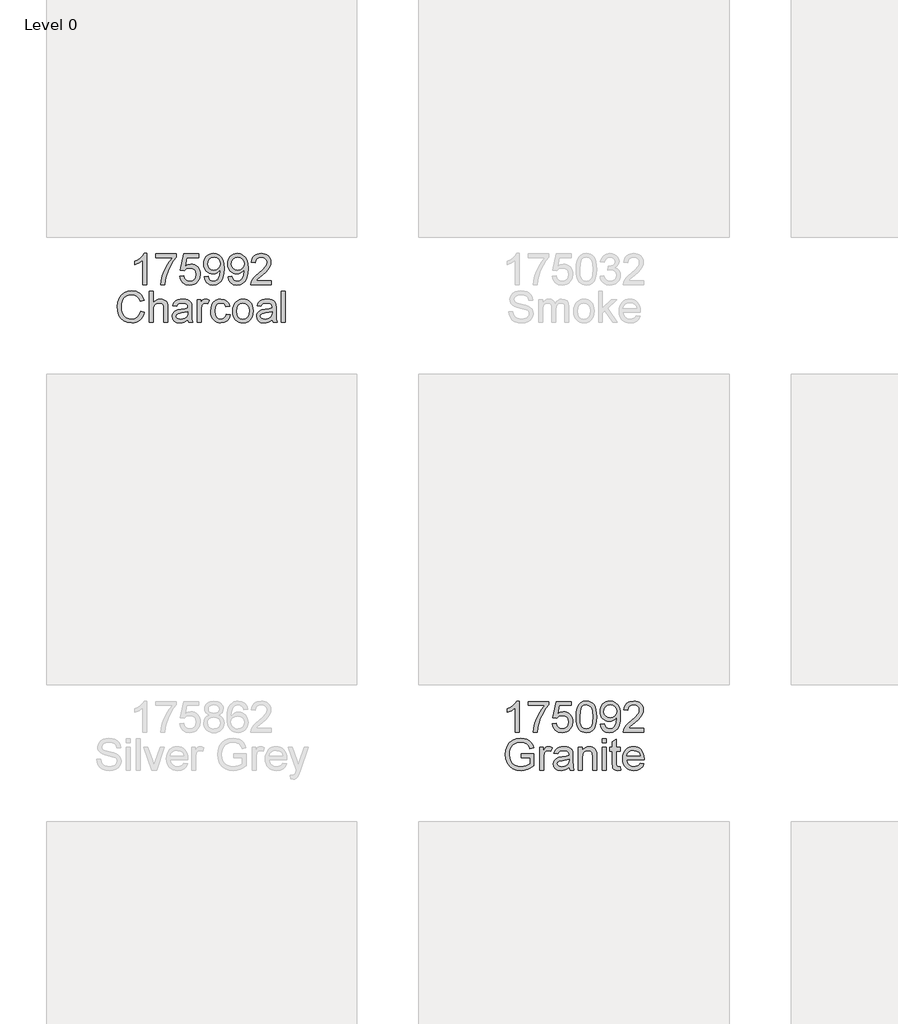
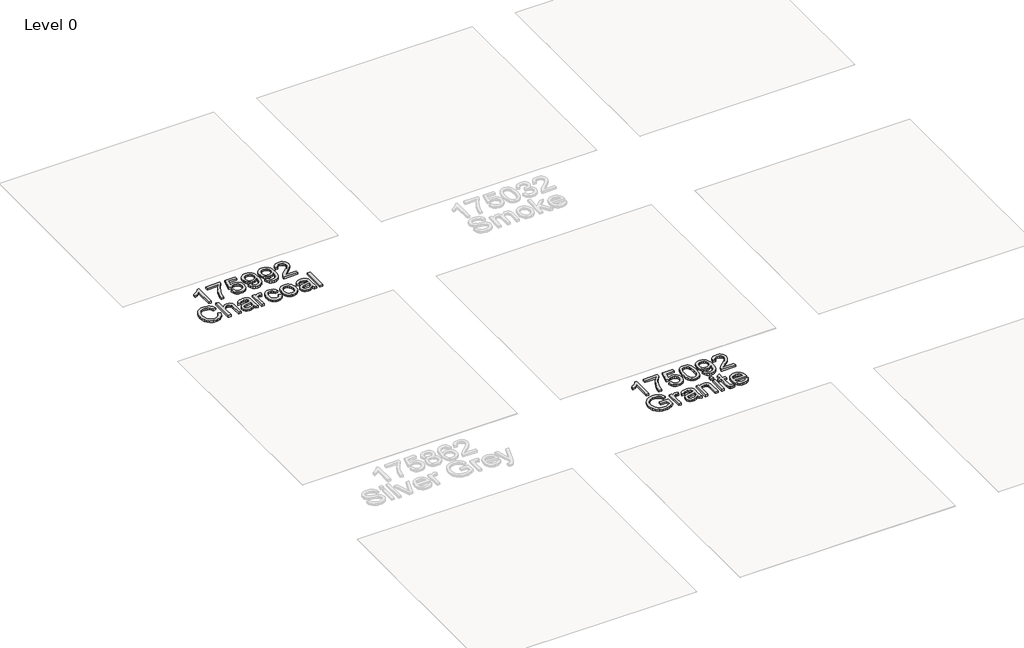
# One storey, part 3 of 5: 2 proxies.
"""IFC4 building model written with IfcOpenShell, lengths in millimetres."""

from ifc_helpers import new_model, si_unit, origin, origin_with_axes, place, context, project, spatial, polyline, outline, extrude, element, save

model = new_model("IFC4")

# Units and contexts
model_context = context("Model", 3, world=origin())
ifc_project = project(units=[si_unit("LENGTHUNIT", "METRE", prefix="MILLI")], contexts=[model_context])

# Site, building, storey
site = spatial("IfcSite", under=ifc_project)
building = spatial("IfcBuilding", under=site)
storey = spatial("IfcBuildingStorey", under=building, Name="Level 0", Elevation=0.0)

# Proxies
placement = place(None, origin())
element("IfcBuildingElementProxy", 1, Name="Floor Name", ObjectType="Floor Name", at=placement, inside=storey, context=model_context, shape_type="SweptSolid", body=[
    extrude(outline(polyline([(20690.377598, -2548.7362914), (20652.7064817, -2548.7362914), (20652.7064817, -2313.8804257), (20617.0219282, -2339.3010716), (20577.3642491, -2358.3205707), (20577.3642491, -2322.7095936), (20606.9511586, -2306.6147563), (20632.5833366, -2287.4664984), (20652.7892552, -2267.10423), (20666.0973864, -2247.367361), (20690.377598, -2247.367361), (20690.377598, -2548.7362914)])), origin_with_axes(), (0.0, 0.0, 1.0), 25.0),
    extrude(outline(polyline([(20779.8464993, -2289.7473668), (20779.8464993, -2252.0762505), (20977.6198599, -2252.0762505), (20977.6198599, -2282.5368797), (20949.430902, -2318.2122362), (20921.5178556, -2363.5812832), (20896.8973531, -2414.5053484), (20878.5860268, -2466.8457593), (20869.6097061, -2506.0067977), (20864.606511, -2548.7362914), (20826.9353947, -2548.7362914), (20831.0096878, -2509.9063468), (20841.9081919, -2463.7555505), (20859.3366014, -2414.8364422), (20883.0006107, -2367.7015616), (20910.6285486, -2325.0916295), (20939.9487436, -2289.7473668), (20779.8464993, -2289.7473668)])), origin_with_axes(), (0.0, 0.0, 1.0), 25.0),
    extrude(outline(polyline([(21010.5820866, -2468.6851693), (21048.253203, -2463.9762797), (21055.1693845, -2486.5918254), (21067.2359139, -2502.7878302), (21084.397609, -2512.527506), (21106.5992874, -2515.7740646), (21133.6018258, -2511.2583132), (21153.8353356, -2497.7110587), (21166.4720821, -2476.6957997), (21170.6843309, -2449.7760347), (21166.7387965, -2424.4289652), (21154.9021934, -2405.0415841), (21135.0825509, -2392.7359314), (21107.1878986, -2388.6340471), (21088.9133605, -2390.271122), (21074.1153072, -2395.1823466), (21052.9620925, -2412.1784948), (21015.2909762, -2407.4696053), (21048.253203, -2252.0762505), (21194.2287786, -2252.0762505), (21194.2287786, -2289.7473668), (21078.7138322, -2289.7473668), (21062.6006008, -2372.7415449), (21089.5111687, -2356.4075843), (21117.7093236, -2350.9629308), (21136.0551389, -2352.6505895), (21152.9064335, -2357.7135654), (21168.2632076, -2366.1518587), (21182.125461, -2377.9654693), (21193.60108, -2392.4324287), (21201.7979507, -2408.8307687), (21206.7160731, -2427.1604891), (21208.3554473, -2447.4215899), (21202.4509412, -2485.0927063), (21195.0703087, -2501.8865193), (21184.7374232, -2517.319169), (21169.0840443, -2533.1242992), (21150.8187032, -2544.413678), (21129.9414, -2551.1873052), (21106.4521346, -2553.445181), (21069.4524029, -2547.6418425), (21053.7737321, -2540.3876694), (21039.9758581, -2530.2318271), (21028.4956405, -2517.6801532), (21019.7699395, -2503.2384857), (21010.5820866, -2468.6851693)])), origin_with_axes(), (0.0, 0.0, 1.0), 25.0),
    extrude(outline(polyline([(21246.0265636, -2473.3940588), (21283.6976799, -2468.6851693), (21290.1356148, -2490.0683102), (21300.6202516, -2504.6272402), (21314.8940731, -2512.9873585), (21332.6995616, -2515.7740646), (21348.6748373, -2513.9806399), (21363.196979, -2508.6003657), (21375.2635085, -2500.2218533), (21383.8719472, -2489.4337138), (21396.195994, -2456.6922162), (21401.6406475, -2412.9878352), (21401.4199183, -2405.6301953), (21388.3693045, -2421.5594857), (21371.2903829, -2434.1778381), (21351.4155581, -2442.4000007), (21329.9772349, -2445.1407216), (21312.0820751, -2443.4668585), (21295.6262536, -2438.4452693), (21280.6097704, -2430.0759539), (21267.0326255, -2418.3589123), (21255.7823342, -2403.9057484), (21247.7464119, -2387.328066), (21242.9248585, -2368.6258651), (21241.317674, -2347.7991457), (21243.0030334, -2326.2780489), (21248.0591116, -2306.9642442), (21256.4859085, -2289.8577314), (21268.2834243, -2274.9585106), (21282.6193258, -2262.8873826), (21298.66128, -2254.2651484), (21316.409287, -2249.0918078), (21335.8633468, -2247.367361), (21363.9603342, -2251.3036983), (21389.5373299, -2263.1127104), (21410.9296679, -2282.2057859), (21426.4726822, -2307.9943138), (21435.9364465, -2343.6420791), (21439.0910346, -2392.3128671), (21435.9456436, -2443.9175139), (21426.5094704, -2483.8051193), (21410.8652885, -2513.7783048), (21389.0958715, -2535.6396924), (21362.1393183, -2548.9938088), (21330.933728, -2553.445181), (21298.7256594, -2548.1936655), (21273.029102, -2532.439119), (21255.0580665, -2507.174823), (21246.0265636, -2473.3940588)]), holes=[polyline([(21401.4199183, -2346.9162289), (21397.3548223, -2321.3852184), (21385.1595341, -2301.7403199), (21366.2320055, -2289.2139379), (21341.9701879, -2285.0384773), (21316.8070594, -2289.5358347), (21296.6471261, -2303.0279068), (21283.4033743, -2323.6752838), (21278.9887903, -2349.6385556), (21283.164251, -2372.9162889), (21295.6906329, -2391.3931621), (21315.3539256, -2403.4504945), (21340.9401183, -2407.4696053), (21365.0087979, -2403.4504945), (21384.3869819, -2391.3931621), (21397.1616842, -2372.2357072), (21401.4199183, -2346.9162289)])]), origin_with_axes(), (0.0, 0.0, 1.0), 25.0),
    extrude(outline(polyline([(21476.7621509, -2473.3940588), (21514.4332672, -2468.6851693), (21520.8712022, -2490.0683102), (21531.355839, -2504.6272402), (21545.6296604, -2512.9873585), (21563.435149, -2515.7740646), (21579.4104246, -2513.9806399), (21593.9325664, -2508.6003657), (21605.9990958, -2500.2218533), (21614.6075345, -2489.4337138), (21626.9315814, -2456.6922162), (21632.3762349, -2412.9878352), (21632.1555057, -2405.6301953), (21619.1048919, -2421.5594857), (21602.0259703, -2434.1778381), (21582.1511455, -2442.4000007), (21560.7128222, -2445.1407216), (21542.8176624, -2443.4668585), (21526.3618409, -2438.4452693), (21511.3453577, -2430.0759539), (21497.7682129, -2418.3589123), (21486.5179216, -2403.9057484), (21478.4819993, -2387.328066), (21473.6604459, -2368.6258651), (21472.0532614, -2347.7991457), (21473.7386208, -2326.2780489), (21478.794699, -2306.9642442), (21487.2214959, -2289.8577314), (21499.0190116, -2274.9585106), (21513.3549131, -2262.8873826), (21529.3968674, -2254.2651484), (21547.1448744, -2249.0918078), (21566.5989342, -2247.367361), (21594.6959215, -2251.3036983), (21620.2729173, -2263.1127104), (21641.6652553, -2282.2057859), (21657.2082696, -2307.9943138), (21666.6720339, -2343.6420791), (21669.826622, -2392.3128671), (21666.6812309, -2443.9175139), (21657.2450578, -2483.8051193), (21641.6008759, -2513.7783048), (21619.8314589, -2535.6396924), (21592.8749057, -2548.9938088), (21561.6693154, -2553.445181), (21529.4612467, -2548.1936655), (21503.7646894, -2532.439119), (21485.7936539, -2507.174823), (21476.7621509, -2473.3940588)]), holes=[polyline([(21632.1555057, -2346.9162289), (21628.0904097, -2321.3852184), (21615.8951215, -2301.7403199), (21596.9675929, -2289.2139379), (21572.7057753, -2285.0384773), (21547.5426468, -2289.5358347), (21527.3827135, -2303.0279068), (21514.1389616, -2323.6752838), (21509.7243777, -2349.6385556), (21513.8998383, -2372.9162889), (21526.4262203, -2391.3931621), (21546.0895129, -2403.4504945), (21571.6757057, -2407.4696053), (21595.7443852, -2403.4504945), (21615.1225693, -2391.3931621), (21627.8972716, -2372.2357072), (21632.1555057, -2346.9162289)])]), origin_with_axes(), (0.0, 0.0, 1.0), 25.0),
    extrude(outline(polyline([(21895.8533198, -2511.0651751), (21895.8533198, -2548.7362914), (21698.0799592, -2548.7362914), (21702.1266612, -2522.7638226), (21711.4156816, -2502.4659335), (21725.0089213, -2482.7750497), (21744.6722139, -2462.1644609), (21772.1713931, -2439.1074569), (21812.8223535, -2402.999839), (21837.2129298, -2376.3467885), (21849.4082179, -2354.7153272), (21853.473314, -2333.672477), (21849.6381442, -2314.8093277), (21838.1326348, -2299.1283577), (21820.4467079, -2288.5609474), (21798.0702855, -2285.0384773), (21774.5718231, -2288.4781739), (21756.3156791, -2298.7972639), (21744.5342582, -2315.1864068), (21740.4599651, -2336.8362622), (21702.7888488, -2332.1273727), (21711.9215193, -2295.688661), (21720.4678779, -2281.1527237), (21731.6675854, -2269.0723987), (21745.2631244, -2259.5764447), (21760.9969775, -2252.7936204), (21798.8796259, -2247.367361), (21819.0694497, -2248.8756771), (21837.0381859, -2253.4006257), (21852.7858345, -2260.9422066), (21866.3123956, -2271.5004199), (21877.1764108, -2284.2935162), (21884.9364216, -2298.5397465), (21889.5924281, -2314.2391106), (21891.1444303, -2331.3916087), (21889.4705672, -2349.4086294), (21884.448978, -2367.1129504), (21875.5370367, -2385.1207741), (21862.1921173, -2404.0483027), (21840.9193409, -2426.6454543), (21808.2238286, -2455.6621466), (21764.8873296, -2491.8985232), (21747.8911814, -2511.0651751), (21895.8533198, -2511.0651751)])), origin_with_axes(), (0.0, 0.0, 1.0), 25.0),
    extrude(outline(polyline([(20631.5164788, -2807.533508), (20669.1875951, -2817.2455926), (20661.7333862, -2840.6727779), (20651.8051709, -2861.1431117), (20639.4029491, -2878.6565939), (20624.5267209, -2893.2132246), (20607.5121786, -2904.6566539), (20588.6950146, -2912.830532), (20568.0752287, -2917.7348589), (20545.6528211, -2919.3696345), (20501.9576372, -2914.4216217), (20467.257168, -2899.5775831), (20440.6592997, -2875.3525538), (20421.2719186, -2842.2615683), (20409.4353154, -2803.3580473), (20405.489781, -2761.6954114), (20409.9503502, -2717.751907), (20423.3320577, -2679.8048792), (20444.9359279, -2649.0591415), (20474.0629849, -2626.7195073), (20508.6071042, -2613.1170706), (20546.4621615, -2608.582925), (20587.7661125, -2614.4506428), (20605.7348487, -2621.7852901), (20621.9147587, -2632.0537963), (20636.0391281, -2644.9848484), (20647.8412424, -2660.3071335), (20664.4787056, -2698.1254026), (20626.8075893, -2707.1017233), (20613.7477784, -2679.6301353), (20595.9055017, -2660.7853801), (20573.0600298, -2649.886876), (20544.9906336, -2646.2540413), (20512.6354121, -2650.2823491), (20486.0559379, -2662.3672727), (20465.8868075, -2681.239619), (20452.7626174, -2705.6301953), (20445.5613273, -2733.2029508), (20443.1608973, -2761.621835), (20446.0027857, -2796.4234717), (20454.5284509, -2826.5162189), (20469.0597897, -2850.7504453), (20489.9186989, -2867.9765198), (20514.9254775, -2878.2680186), (20541.9004248, -2881.6985182), (20573.3451383, -2877.0264168), (20599.5475334, -2863.0101128), (20619.3303877, -2839.7967589), (20631.5164788, -2807.533508)])), origin_with_axes(), (0.0, 0.0, 1.0), 25.0),
    extrude(outline(polyline([(20716.2764905, -2914.660745), (20716.2764905, -2613.2918145), (20753.9476068, -2613.2918145), (20753.9476068, -2724.0978715), (20767.7845684, -2708.5824483), (20783.3229841, -2697.5000032), (20800.5628541, -2690.8505361), (20819.5041784, -2688.6340471), (20842.2576798, -2691.0528712), (20861.8106078, -2698.3093436), (20877.2064693, -2709.8332471), (20887.4887711, -2725.0543646), (20893.2829125, -2745.9684561), (20895.214293, -2774.5712812), (20895.214293, -2914.660745), (20857.5431767, -2914.660745), (20857.5431767, -2778.4708303), (20854.5449384, -2754.8895944), (20845.5502236, -2738.7395749), (20831.055673, -2729.4137663), (20811.5579273, -2726.3051634), (20795.6378339, -2728.4020908), (20780.6926279, -2734.6928729), (20768.3133987, -2744.5705045), (20760.0912361, -2757.4279802), (20755.4835141, -2774.5160989), (20753.9476068, -2797.0856593), (20753.9476068, -2914.660745), (20716.2764905, -2914.660745)])), origin_with_axes(), (0.0, 0.0, 1.0), 25.0),
    extrude(outline(polyline([(21088.278764, -2886.4074077), (21070.2801374, -2901.8400574), (21051.7480819, -2911.9384182), (21032.2595332, -2917.5118304), (21011.391427, -2919.3696345), (20979.9099253, -2914.8998682), (20956.6873744, -2901.4905695), (20942.3675677, -2881.1283011), (20937.5942988, -2855.7996257), (20939.3969206, -2840.183035), (20944.8047859, -2826.0011841), (20953.1465102, -2813.8610783), (20963.7507087, -2804.3697228), (20990.1278477, -2792.0088878), (21022.7221925, -2786.343505), (21061.2394374, -2780.3838167), (21088.0580348, -2773.3940588), (21088.278764, -2765.0063493), (21085.685196, -2748.1941421), (21077.9044918, -2737.1944705), (21060.5036734, -2729.0274902), (21036.2602499, -2726.3051634), (21013.8194482, -2728.1169822), (20998.1476752, -2733.5524387), (20987.4607033, -2743.6048142), (20979.9743046, -2759.2673902), (20942.3031883, -2754.5585007), (20948.8422908, -2733.9571089), (20958.6003607, -2717.7703011), (20972.487906, -2705.391072), (20991.4154347, -2696.2124162), (21014.5644092, -2690.5286394), (21041.1162922, -2688.6340471), (21066.5829234, -2690.3079102), (21086.7704478, -2695.3294994), (21101.9915654, -2702.8802774), (21112.5589757, -2712.1417066), (21119.5671277, -2723.5920337), (21124.1104704, -2737.7095053), (21125.9498803, -2770.671732), (21125.9498803, -2817.5398982), (21127.8628667, -2882.9861052), (21135.3676594, -2914.660745), (21097.6965431, -2914.660745), (21088.278764, -2886.4074077)]), holes=[polyline([(21088.278764, -2811.0651751), (21027.5046584, -2822.6166698), (20995.0942547, -2828.7235109), (20980.415763, -2838.6563247), (20975.2654151, -2853.1508754), (20978.0705153, -2864.3528821), (20986.485816, -2873.5315379), (21000.327376, -2879.6567731), (21019.4112545, -2881.6985182), (21039.6447643, -2879.445241), (21057.5238292, -2872.6854093), (21072.0183798, -2862.7250043), (21082.0983465, -2850.870007), (21086.5681128, -2838.6563247), (21088.0580348, -2821.733753), (21088.278764, -2811.0651751)])]), origin_with_axes(), (0.0, 0.0, 1.0), 25.0),
    extrude(outline(polyline([(21177.7476653, -2914.660745), (21177.7476653, -2693.3429367), (21210.709892, -2693.3429367), (21210.709892, -2726.0844342), (21222.8867861, -2707.1017233), (21234.1071869, -2695.9181106), (21245.364376, -2690.455063), (21257.6516346, -2688.6340471), (21276.4136164, -2691.5403149), (21295.4699037, -2700.2591182), (21282.8883395, -2734.0306853), (21269.6445877, -2728.2365439), (21256.4008358, -2726.3051634), (21245.1528438, -2728.1629675), (21235.1004683, -2733.7363797), (21226.9794733, -2742.6023358), (21221.5256227, -2754.3377715), (21216.9454918, -2775.3806216), (21215.4187816, -2798.3364581), (21215.4187816, -2914.660745), (21177.7476653, -2914.660745)])), origin_with_axes(), (0.0, 0.0, 1.0), 25.0),
    extrude(outline(polyline([(21460.2810376, -2834.6096228), (21497.9521539, -2839.3185123), (21487.4491229, -2872.8233651), (21467.7122539, -2898.1428434), (21440.5993508, -2914.0629367), (21407.9682178, -2919.3696345), (21386.840295, -2917.5187282), (21367.8966715, -2911.9660093), (21351.1373474, -2902.7114779), (21336.5623226, -2889.7551339), (21324.7648068, -2873.3406991), (21316.3380099, -2853.7118954), (21311.2819317, -2830.8687228), (21309.5965723, -2804.8111812), (21312.4752489, -2771.2879344), (21321.1112788, -2742.2344538), (21335.6426176, -2718.7727796), (21356.2072211, -2702.0249517), (21380.8093295, -2691.9817733), (21407.453183, -2688.6340471), (21439.2841727, -2693.2325721), (21464.7324097, -2707.0281469), (21482.9885537, -2729.2850076), (21493.2432643, -2759.2673902), (21455.572148, -2763.9762797), (21448.73874, -2747.5411516), (21438.0977532, -2735.7597307), (21424.2377991, -2728.6688052), (21407.7474886, -2726.3051634), (21383.4028976, -2730.9588707), (21364.0798958, -2744.9199924), (21351.4707404, -2768.9426867), (21347.2676886, -2803.7811116), (21351.3787699, -2839.0885861), (21363.7120138, -2863.1940538), (21382.6855277, -2877.0724021), (21406.7174191, -2881.6985182), (21426.2243618, -2878.8106445), (21442.2180316, -2870.1470235), (21453.8522997, -2855.486926), (21460.2810376, -2834.6096228)])), origin_with_axes(), (0.0, 0.0, 1.0), 25.0),
    extrude(outline(polyline([(21521.4966015, -2804.0018408), (21523.5337481, -2775.3392349), (21529.6451877, -2750.6405574), (21539.8309205, -2729.9058084), (21554.0909463, -2713.134988), (21568.4475412, -2702.4158264), (21584.2940581, -2694.7592823), (21601.6304971, -2690.1653559), (21620.4568583, -2688.6340471), (21641.2398917, -2690.498749), (21660.0317639, -2696.0928546), (21676.8324747, -2705.4163639), (21691.6420243, -2718.4692769), (21703.7292471, -2734.8101353), (21712.3629777, -2753.9974806), (21717.543216, -2776.0313129), (21719.2699622, -2800.911632), (21716.2165416, -2838.9690244), (21707.0562799, -2867.9397316), (21692.0558916, -2889.6355722), (21671.482091, -2905.8683653), (21647.0455295, -2915.9943172), (21620.4568583, -2919.3696345), (21599.3703221, -2917.5118304), (21580.403706, -2911.9384182), (21563.5570099, -2902.6493978), (21548.8302338, -2889.6447693), (21536.8717697, -2873.1452618), (21528.3300096, -2853.3716046), (21523.2049536, -2830.3237976), (21521.4966015, -2804.0018408)]), holes=[polyline([(21559.1677179, -2803.9282644), (21563.5271195, -2838.0217283), (21576.6053244, -2862.311137), (21596.2870112, -2876.8516729), (21620.4568583, -2881.6985182), (21644.5163407, -2876.8240817), (21664.1612393, -2862.2007724), (21677.2394442, -2837.589467), (21681.5988458, -2802.751042), (21677.2118531, -2769.6508595), (21664.0508747, -2745.6925446), (21644.378385, -2731.1520087), (21620.4568583, -2726.3051634), (21596.2870112, -2731.1336146), (21576.6053244, -2745.6189682), (21563.5271195, -2769.8531946), (21559.1677179, -2803.9282644)])]), origin_with_axes(), (0.0, 0.0, 1.0), 25.0),
    extrude(outline(polyline([(21902.9166541, -2886.4074077), (21884.9180275, -2901.8400574), (21866.385972, -2911.9384182), (21846.8974233, -2917.5118304), (21826.0293172, -2919.3696345), (21794.5478154, -2914.8998682), (21771.3252645, -2901.4905695), (21757.0054578, -2881.1283011), (21752.2321889, -2855.7996257), (21754.0348107, -2840.183035), (21759.442676, -2826.0011841), (21767.7844003, -2813.8610783), (21778.3885988, -2804.3697228), (21804.7657378, -2792.0088878), (21837.3600826, -2786.343505), (21875.8773275, -2780.3838167), (21902.695925, -2773.3940588), (21902.9166541, -2765.0063493), (21900.3230861, -2748.1941421), (21892.5423819, -2737.1944705), (21875.1415635, -2729.0274902), (21850.89814, -2726.3051634), (21828.4573383, -2728.1169822), (21812.7855653, -2733.5524387), (21802.0985934, -2743.6048142), (21794.6121948, -2759.2673902), (21756.9410785, -2754.5585007), (21763.4801809, -2733.9571089), (21773.2382508, -2717.7703011), (21787.1257962, -2705.391072), (21806.0533248, -2696.2124162), (21829.2022994, -2690.5286394), (21855.7541824, -2688.6340471), (21881.2208135, -2690.3079102), (21901.408338, -2695.3294994), (21916.6294555, -2702.8802774), (21927.1968658, -2712.1417066), (21934.2050178, -2723.5920337), (21938.7483605, -2737.7095053), (21940.5877705, -2770.671732), (21940.5877705, -2817.5398982), (21942.5007568, -2882.9861052), (21950.0055495, -2914.660745), (21912.3344332, -2914.660745), (21902.9166541, -2886.4074077)]), holes=[polyline([(21902.9166541, -2811.0651751), (21842.1425485, -2822.6166698), (21809.7321448, -2828.7235109), (21795.0536532, -2838.6563247), (21789.9033052, -2853.1508754), (21792.7084054, -2864.3528821), (21801.1237061, -2873.5315379), (21814.9652662, -2879.6567731), (21834.0491447, -2881.6985182), (21854.2826544, -2879.445241), (21872.1617194, -2872.6854093), (21886.65627, -2862.7250043), (21896.7362366, -2850.870007), (21901.2060029, -2838.6563247), (21902.695925, -2821.733753), (21902.9166541, -2811.0651751)])]), origin_with_axes(), (0.0, 0.0, 1.0), 25.0),
    extrude(outline(polyline([(21992.3855554, -2914.660745), (21992.3855554, -2613.2918145), (22030.0566717, -2613.2918145), (22030.0566717, -2914.660745), (21992.3855554, -2914.660745)])), origin_with_axes(), (0.0, 0.0, 1.0), 25.0),
])
element("IfcBuildingElementProxy", 2, Name="Floor Name", ObjectType="Floor Name", at=placement, inside=storey, context=model_context, shape_type="SweptSolid", body=[
    extrude(outline(polyline([(24290.377598, -6874.660745), (24252.7064817, -6874.660745), (24252.7064817, -6639.8048792), (24217.0219282, -6665.2255251), (24177.3642491, -6684.2450242), (24177.3642491, -6648.6340471), (24206.9511586, -6632.5392098), (24232.5833366, -6613.390952), (24252.7892552, -6593.0286835), (24266.0973864, -6573.2918145), (24290.377598, -6573.2918145), (24290.377598, -6874.660745)])), origin_with_axes(), (0.0, 0.0, 1.0), 25.0),
    extrude(outline(polyline([(24379.8464993, -6615.6718203), (24379.8464993, -6578.000704), (24577.6198599, -6578.000704), (24577.6198599, -6608.4613332), (24549.430902, -6644.1366897), (24521.5178556, -6689.5057368), (24496.8973531, -6740.429802), (24478.5860268, -6792.7702128), (24469.6097061, -6831.9312512), (24464.606511, -6874.660745), (24426.9353947, -6874.660745), (24431.0096878, -6835.8308004), (24441.9081919, -6789.6800041), (24459.3366014, -6740.7608958), (24483.0006107, -6693.6260151), (24510.6285486, -6651.016083), (24539.9487436, -6615.6718203), (24379.8464993, -6615.6718203)])), origin_with_axes(), (0.0, 0.0, 1.0), 25.0),
    extrude(outline(polyline([(24610.5820866, -6794.6096228), (24648.253203, -6789.9007333), (24655.1693845, -6812.5162789), (24667.2359139, -6828.7122838), (24684.397609, -6838.4519596), (24706.5992874, -6841.6985182), (24733.6018258, -6837.1827667), (24753.8353356, -6823.6355122), (24766.4720821, -6802.6202532), (24770.6843309, -6775.7004882), (24766.7387965, -6750.3534188), (24754.9021934, -6730.9660376), (24735.0825509, -6718.6603849), (24707.1878986, -6714.5585007), (24688.9133605, -6716.1955755), (24674.1153072, -6721.1068002), (24652.9620925, -6738.1029483), (24615.2909762, -6733.3940588), (24648.253203, -6578.000704), (24794.2287786, -6578.000704), (24794.2287786, -6615.6718203), (24678.7138322, -6615.6718203), (24662.6006008, -6698.6659985), (24689.5111687, -6682.3320379), (24717.7093236, -6676.8873843), (24736.0551389, -6678.575043), (24752.9064335, -6683.638019), (24768.2632076, -6692.0763122), (24782.125461, -6703.8899228), (24793.60108, -6718.3568823), (24801.7979507, -6734.7552222), (24806.7160731, -6753.0849426), (24808.3554473, -6773.3460435), (24802.4509412, -6811.0171598), (24795.0703087, -6827.8109729), (24784.7374232, -6843.2436226), (24769.0840443, -6859.0487528), (24750.8187032, -6870.3381315), (24729.9414, -6877.1117587), (24706.4521346, -6879.3696345), (24669.4524029, -6873.566296), (24653.7737321, -6866.3121229), (24639.9758581, -6856.1562806), (24628.4956405, -6843.6046068), (24619.7699395, -6829.1629392), (24610.5820866, -6794.6096228)])), origin_with_axes(), (0.0, 0.0, 1.0), 25.0),
    extrude(outline(polyline([(24841.317674, -6726.4043009), (24844.085986, -6678.1657743), (24852.3909221, -6639.6945146), (24866.1497087, -6610.4019108), (24885.2795724, -6589.6993515), (24909.9184691, -6577.3936987), (24940.2043543, -6573.2918145), (24963.4177082, -6575.7198357), (24984.2030409, -6583.0038992), (25001.5854652, -6594.8588965), (25014.5900938, -6610.999719), (25024.412543, -6631.288411), (25032.2484295, -6655.5870168), (25037.3803834, -6686.4431192), (25039.0910346, -6726.4043009), (25036.3503138, -6774.366916), (25028.1281512, -6812.7462052), (25014.452138, -6842.0664002), (24995.3498654, -6862.8517329), (24970.6557865, -6875.2401591), (24940.2043543, -6879.3696345), (24919.4558098, -6877.5762098), (24901.06171, -6872.1959356), (24885.022055, -6863.228812), (24871.3368448, -6850.6748389), (24858.2034576, -6827.9811183), (24848.8224667, -6799.7047884), (24843.1938722, -6765.8458493), (24841.317674, -6726.4043009)]), holes=[polyline([(24878.9887903, -6726.3307245), (24883.4033743, -6785.5873169), (24888.9216042, -6805.8553155), (24896.6471261, -6819.8831159), (24916.365601, -6836.2446676), (24940.2043543, -6841.6985182), (24964.0431076, -6836.2262735), (24983.7615826, -6819.8095395), (24991.4871045, -6805.7587465), (24997.0053344, -6785.4953464), (25001.4199183, -6726.3307245), (24997.1524872, -6668.4077044), (24991.8181982, -6648.2063843), (24984.3501937, -6633.8451909), (24964.668507, -6616.6834958), (24939.7628959, -6610.9629308), (24916.18166, -6616.0029141), (24897.2357373, -6631.1228641), (24889.252698, -6646.7578489), (24883.5505271, -6667.8374873), (24878.9887903, -6726.3307245)])]), origin_with_axes(), (0.0, 0.0, 1.0), 25.0),
    extrude(outline(polyline([(25076.7621509, -6799.3185123), (25114.4332672, -6794.6096228), (25120.8712022, -6815.9927638), (25131.355839, -6830.5516937), (25145.6296604, -6838.9118121), (25163.435149, -6841.6985182), (25179.4104246, -6839.9050935), (25193.9325664, -6834.5248193), (25205.9990958, -6826.1463068), (25214.6075345, -6815.3581673), (25226.9315814, -6782.6166698), (25232.3762349, -6738.9122887), (25232.1555057, -6731.5546488), (25219.1048919, -6747.4839392), (25202.0259703, -6760.1022917), (25182.1511455, -6768.3244542), (25160.7128222, -6771.0651751), (25142.8176624, -6769.391312), (25126.3618409, -6764.3697228), (25111.3453577, -6756.0004074), (25097.7682129, -6744.2833659), (25086.5179216, -6729.830202), (25078.4819993, -6713.2525196), (25073.6604459, -6694.5503186), (25072.0532614, -6673.7235992), (25073.7386208, -6652.2025025), (25078.794699, -6632.8886977), (25087.2214959, -6615.7821849), (25099.0190116, -6600.8829641), (25113.3549131, -6588.8118362), (25129.3968674, -6580.1896019), (25147.1448744, -6575.0162614), (25166.5989342, -6573.2918145), (25194.6959215, -6577.2281519), (25220.2729173, -6589.0371639), (25241.6652553, -6608.1302394), (25257.2082696, -6633.9187673), (25266.6720339, -6669.5665326), (25269.826622, -6718.2373206), (25266.6812309, -6769.8419675), (25257.2450578, -6809.7295728), (25241.6008759, -6839.7027584), (25219.8314589, -6861.5641459), (25192.8749057, -6874.9182623), (25161.6693154, -6879.3696345), (25129.4612467, -6874.118119), (25103.7646894, -6858.3635726), (25085.7936539, -6833.0992765), (25076.7621509, -6799.3185123)]), holes=[polyline([(25232.1555057, -6672.8406824), (25228.0904097, -6647.3096719), (25215.8951215, -6627.6647734), (25196.9675929, -6615.1383915), (25172.7057753, -6610.9629308), (25147.5426468, -6615.4602882), (25127.3827135, -6628.9523604), (25114.1389616, -6649.5997374), (25109.7243777, -6675.5630092), (25113.8998383, -6698.8407424), (25126.4262203, -6717.3176156), (25146.0895129, -6729.374948), (25171.6757057, -6733.3940588), (25195.7443852, -6729.374948), (25215.1225693, -6717.3176156), (25227.8972716, -6698.1601607), (25232.1555057, -6672.8406824)])]), origin_with_axes(), (0.0, 0.0, 1.0), 25.0),
    extrude(outline(polyline([(25495.8533198, -6836.9896286), (25495.8533198, -6874.660745), (25298.0799592, -6874.660745), (25302.1266612, -6848.6882761), (25311.4156816, -6828.390387), (25325.0089213, -6808.6995032), (25344.6722139, -6788.0889144), (25372.1713931, -6765.0319104), (25412.8223535, -6728.9242926), (25437.2129298, -6702.271242), (25449.4082179, -6680.6397807), (25453.473314, -6659.5969306), (25449.6381442, -6640.7337813), (25438.1326348, -6625.0528112), (25420.4467079, -6614.4854009), (25398.0702855, -6610.9629308), (25374.5718231, -6614.4026275), (25356.3156791, -6624.7217174), (25344.5342582, -6641.1108603), (25340.4599651, -6662.7607157), (25302.7888488, -6658.0518262), (25311.9215193, -6621.6131146), (25320.4678779, -6607.0771772), (25331.6675854, -6594.9968522), (25345.2631244, -6585.5008982), (25360.9969775, -6578.7180739), (25398.8796259, -6573.2918145), (25419.0694497, -6574.8001307), (25437.0381859, -6579.3250792), (25452.7858345, -6586.8666601), (25466.3123956, -6597.4248734), (25477.1764108, -6610.2179698), (25484.9364216, -6624.4642), (25489.5924281, -6640.1635642), (25491.1444303, -6657.3160622), (25489.4705672, -6675.3330829), (25484.448978, -6693.0374039), (25475.5370367, -6711.0452276), (25462.1921173, -6729.9727562), (25440.9193409, -6752.5699078), (25408.2238286, -6781.5866002), (25364.8873296, -6817.8229767), (25347.8911814, -6836.9896286), (25495.8533198, -6836.9896286)])), origin_with_axes(), (0.0, 0.0, 1.0), 25.0),
    extrude(outline(polyline([(24311.567601, -7122.86296), (24311.567601, -7085.1918437), (24433.998729, -7085.1918437), (24433.998729, -7197.8373106), (24404.2462726, -7218.5306729), (24373.5557172, -7233.3747114), (24342.000639, -7242.3142439), (24309.6546146, -7245.294088), (24267.3941704, -7240.5576073), (24229.1988222, -7226.3481653), (24197.4690002, -7203.1624025), (24174.6051342, -7171.4969598), (24160.7819682, -7133.5131438), (24156.1742462, -7091.3722612), (24160.7635741, -7048.9278761), (24174.5315578, -7009.4449409), (24196.9079801, -6976.3263643), (24227.3226241, -6952.9750547), (24264.368341, -6939.1242975), (24306.6379822, -6934.5073785), (24337.6688285, -6937.18372), (24365.5726779, -6945.2127446), (24389.0711403, -6958.015038), (24406.8858259, -6975.0111862), (24420.0651984, -6997.0197265), (24429.6577214, -7024.8591965), (24394.9296611, -7034.6448576), (24387.176548, -7014.7884269), (24377.7495719, -6999.8064326), (24365.2783723, -6988.5124554), (24348.3925887, -6979.7200757), (24328.2602465, -6974.06389), (24306.049371, -6972.1784948), (24280.049311, -6974.2110428), (24257.8200415, -6980.3086869), (24239.4443358, -6989.7080719), (24225.0049675, -7001.6458426), (24205.6175864, -7030.671732), (24196.7884185, -7059.1090103), (24193.8453625, -7089.8271569), (24197.3862267, -7125.8520012), (24208.0088193, -7155.494093), (24225.3912436, -7178.5419), (24249.2116028, -7194.7838901), (24277.087861, -7204.4132013), (24306.6379822, -7207.6229717), (24332.7300127, -7205.2041476), (24358.1782498, -7197.9476752), (24380.2787606, -7187.950482), (24396.3276127, -7177.3094953), (24396.3276127, -7122.86296), (24311.567601, -7122.86296)])), origin_with_axes(), (0.0, 0.0, 1.0), 25.0),
    extrude(outline(polyline([(24490.5054034, -7240.5851985), (24490.5054034, -7019.2673902), (24523.4676302, -7019.2673902), (24523.4676302, -7052.0088878), (24535.6445242, -7033.0261768), (24546.8649251, -7021.8425642), (24558.1221141, -7016.3795165), (24570.4093728, -7014.5585007), (24589.1713545, -7017.4647684), (24608.2276419, -7026.1835717), (24595.6460776, -7059.9551389), (24582.4023258, -7054.1609974), (24569.158574, -7052.229617), (24557.910582, -7054.087421), (24547.8582065, -7059.6608333), (24539.7372114, -7068.5267893), (24534.2833608, -7080.262225), (24529.70323, -7101.3050751), (24528.1765197, -7124.2609116), (24528.1765197, -7240.5851985), (24490.5054034, -7240.5851985)])), origin_with_axes(), (0.0, 0.0, 1.0), 25.0),
    extrude(outline(polyline([(24773.0387757, -7212.3318613), (24755.0401491, -7227.764511), (24736.5080936, -7237.8628717), (24717.0195449, -7243.436284), (24696.1514387, -7245.294088), (24664.669937, -7240.8243218), (24641.447386, -7227.4150231), (24627.1275794, -7207.0527546), (24622.3543105, -7181.7240793), (24624.1569323, -7166.1074886), (24629.5647976, -7151.9256377), (24637.9065218, -7139.7855318), (24648.5107203, -7130.2941763), (24674.8878594, -7117.9333413), (24707.4822042, -7112.2679586), (24745.9994491, -7106.3082702), (24772.8180465, -7099.3185123), (24773.0387757, -7090.9308028), (24770.4452077, -7074.1185957), (24762.6645035, -7063.118924), (24745.2636851, -7054.9519437), (24721.0202616, -7052.229617), (24698.5794599, -7054.0414358), (24682.9076869, -7059.4768923), (24672.2207149, -7069.5292678), (24664.7343163, -7085.1918437), (24627.0632, -7080.4829542), (24633.6023025, -7059.8815625), (24643.3603724, -7043.6947547), (24657.2479177, -7031.3155255), (24676.1754464, -7022.1368698), (24699.3244209, -7016.4530929), (24725.8763039, -7014.5585007), (24751.3429351, -7016.2323637), (24771.5304595, -7021.253953), (24786.7515771, -7028.8047309), (24797.3189874, -7038.0661601), (24804.3271394, -7049.5164872), (24808.870482, -7063.6339588), (24810.709892, -7096.5961856), (24810.709892, -7143.4643518), (24812.6228784, -7208.9105587), (24820.1276711, -7240.5851985), (24782.4565548, -7240.5851985), (24773.0387757, -7212.3318613)]), holes=[polyline([(24773.0387757, -7136.9896286), (24712.2646701, -7148.5411233), (24679.8542663, -7154.6479644), (24665.1757747, -7164.5807783), (24660.0254268, -7179.0753289), (24662.830527, -7190.2773356), (24671.2458277, -7199.4559914), (24685.0873877, -7205.5812266), (24704.1712662, -7207.6229717), (24724.404776, -7205.3696945), (24742.2838409, -7198.6098628), (24756.7783915, -7188.6494578), (24766.8583582, -7176.7944605), (24771.3281244, -7164.5807783), (24772.8180465, -7147.6582065), (24773.0387757, -7136.9896286)])]), origin_with_axes(), (0.0, 0.0, 1.0), 25.0),
    extrude(outline(polyline([(24862.5076769, -7240.5851985), (24862.5076769, -7019.2673902), (24900.1787933, -7019.2673902), (24900.1787933, -7050.1694778), (24913.2661952, -7034.5896753), (24928.9839535, -7023.4612449), (24947.332068, -7016.7841867), (24968.3105388, -7014.5585007), (24986.8793825, -7016.3519254), (25003.8847277, -7021.7321996), (25018.0665786, -7030.0279385), (25028.1649394, -7040.5677577), (25039.4589166, -7068.2692719), (25041.4454794, -7104.6895895), (25041.4454794, -7240.5851985), (25003.7743631, -7240.5851985), (25003.7743631, -7109.766361), (24999.4333555, -7076.4362522), (24993.427682, -7066.5126354), (24984.0926764, -7058.8147047), (24972.1273145, -7053.8758889), (24958.2305721, -7052.229617), (24936.1668494, -7055.926831), (24917.3588824, -7067.0184732), (24909.8425934, -7076.0729688), (24904.4738155, -7088.4475994), (24900.1787933, -7123.1572656), (24900.1787933, -7240.5851985), (24862.5076769, -7240.5851985)])), origin_with_axes(), (0.0, 0.0, 1.0), 25.0),
    extrude(outline(polyline([(25093.2432643, -7240.5851985), (25093.2432643, -7019.2673902), (25130.9143806, -7019.2673902), (25130.9143806, -7240.5851985), (25093.2432643, -7240.5851985)])), origin_with_axes(), (0.0, 0.0, 1.0), 25.0),
    extrude(outline(polyline([(25093.2432643, -6976.8873843), (25093.2432643, -6939.216268), (25130.9143806, -6939.216268), (25130.9143806, -6976.8873843), (25093.2432643, -6976.8873843)])), origin_with_axes(), (0.0, 0.0, 1.0), 25.0),
    extrude(outline(polyline([(25267.4721772, -7209.1680761), (25272.1810668, -7241.6888445), (25244.0013059, -7245.294088), (25225.9199059, -7243.7305895), (25212.4370308, -7239.0400941), (25202.9088871, -7231.8112129), (25196.6916814, -7222.6325571), (25193.2703788, -7206.8688136), (25192.1299446, -7179.8846693), (25192.1299446, -7056.9385065), (25163.8766074, -7056.9385065), (25163.8766074, -7019.2673902), (25192.1299446, -7019.2673902), (25192.1299446, -6965.4830425), (25229.8010609, -6943.3365464), (25229.8010609, -7019.2673902), (25267.4721772, -7019.2673902), (25267.4721772, -7056.9385065), (25229.8010609, -7056.9385065), (25229.8010609, -7178.7810233), (25231.7876237, -7198.2051926), (25238.2255586, -7205.084586), (25251.0646402, -7207.6229717), (25267.4721772, -7209.1680761)])), origin_with_axes(), (0.0, 0.0, 1.0), 25.0),
    extrude(outline(polyline([(25460.0951899, -7174.660745), (25497.0305422, -7179.3696345), (25483.722411, -7207.1999074), (25462.4864229, -7228.0036343), (25433.8008243, -7240.9714746), (25398.1438619, -7245.294088), (25374.7695597, -7243.4293862), (25353.9428402, -7237.8352806), (25335.6637036, -7228.5117713), (25319.9321497, -7215.4588582), (25307.2816076, -7199.0398249), (25298.2455061, -7179.6179548), (25292.8238452, -7157.193248), (25291.0166249, -7131.7657043), (25292.8422393, -7105.4759372), (25298.3190825, -7082.3039701), (25307.4471545, -7062.2498028), (25320.2264553, -7045.3134354), (25335.9166224, -7031.8581515), (25353.7772933, -7022.2472344), (25373.8084679, -7016.4806841), (25396.0101463, -7014.5585007), (25417.4967541, -7016.4760856), (25436.9278213, -7022.2288403), (25454.3033477, -7031.8167647), (25469.6233336, -7045.239859), (25482.1290222, -7062.1394382), (25491.0616569, -7082.1568173), (25496.4212377, -7105.2919962), (25498.2077646, -7131.5449751), (25497.9870354, -7141.6985182), (25328.6877412, -7141.6985182), (25335.2084496, -7169.8966731), (25350.3559907, -7190.6268235), (25372.2173783, -7203.3739347), (25398.8796259, -7207.6229717), (25418.9291946, -7205.654803), (25435.8149782, -7199.750297), (25449.5369766, -7189.5415717), (25460.0951899, -7174.660745)]), holes=[polyline([(25328.6877412, -7104.0274019), (25460.5366483, -7104.0274019), (25455.4414827, -7084.1249859), (25445.4534865, -7069.8879527), (25423.4909314, -7056.6442009), (25395.8629936, -7052.229617), (25370.4699388, -7055.7520871), (25349.473074, -7066.3194974), (25334.8773558, -7082.7914137), (25328.6877412, -7104.0274019)])]), origin_with_axes(), (0.0, 0.0, 1.0), 25.0),
])

save(model, "model.ifc")
